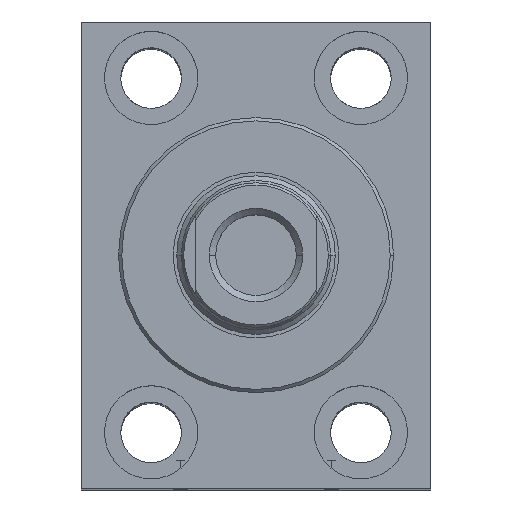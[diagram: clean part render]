
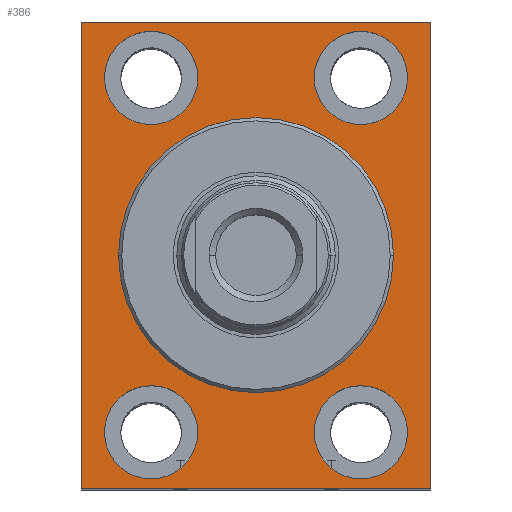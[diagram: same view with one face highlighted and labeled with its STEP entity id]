
A CAD part, top view. The second image highlights one B-rep face of the part: STEP entity #386.
In plain terms, the highlighted planar face has unit normal (0, 0, 1).
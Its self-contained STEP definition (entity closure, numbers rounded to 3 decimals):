
#15 = CIRCLE ( 'NONE', #5001, 10. ) ;
#47 = ORIENTED_EDGE ( 'NONE', *, *, #1161, .T. ) ;
#66 = FACE_BOUND ( 'NONE', #912, .T. ) ;
#68 = CARTESIAN_POINT ( 'NONE',  ( -37.5, -50., -10. ) ) ;
#92 = AXIS2_PLACEMENT_3D ( 'NONE', #5874, #6452, #3270 ) ;
#101 = FACE_BOUND ( 'NONE', #1157, .T. ) ;
#143 = PLANE ( 'NONE',  #4016 ) ;
#314 = CARTESIAN_POINT ( 'NONE',  ( -22.5, -38., -10. ) ) ;
#333 = DIRECTION ( 'NONE',  ( -1., 0., 0. ) ) ;
#381 = ORIENTED_EDGE ( 'NONE', *, *, #6910, .T. ) ;
#386 = ADVANCED_FACE ( 'NONE', ( #794, #4446, #101, #7668, #66, #4405 ), #143, .T. ) ;
#452 = CARTESIAN_POINT ( 'NONE',  ( 32.5, 38., -10. ) ) ;
#480 = AXIS2_PLACEMENT_3D ( 'NONE', #6302, #2438, #3934 ) ;
#794 = FACE_BOUND ( 'NONE', #7194, .T. ) ;
#846 = DIRECTION ( 'NONE',  ( -1., 0., 0. ) ) ;
#912 = EDGE_LOOP ( 'NONE', ( #4352, #4457 ) ) ;
#951 = VECTOR ( 'NONE', #4124, 1000. ) ;
#1111 = DIRECTION ( 'NONE',  ( 0., 0., -1. ) ) ;
#1125 = DIRECTION ( 'NONE',  ( -1., 0., 0. ) ) ;
#1150 = DIRECTION ( 'NONE',  ( -1., 0., 0. ) ) ;
#1156 = AXIS2_PLACEMENT_3D ( 'NONE', #1840, #7527, #6231 ) ;
#1157 = EDGE_LOOP ( 'NONE', ( #7474, #5528 ) ) ;
#1161 = EDGE_CURVE ( 'NONE', #2017, #6654, #5355, .T. ) ;
#1193 = EDGE_CURVE ( 'NONE', #4939, #2117, #6797, .T. ) ;
#1320 = LINE ( 'NONE', #68, #4884 ) ;
#1344 = EDGE_CURVE ( 'NONE', #6645, #2289, #5096, .T. ) ;
#1613 = VERTEX_POINT ( 'NONE', #6896 ) ;
#1624 = VERTEX_POINT ( 'NONE', #3121 ) ;
#1644 = EDGE_CURVE ( 'NONE', #1624, #5294, #6004, .T. ) ;
#1766 = CARTESIAN_POINT ( 'NONE',  ( -22.5, 38., -10. ) ) ;
#1840 = CARTESIAN_POINT ( 'NONE',  ( -22.5, 38., -10. ) ) ;
#2017 = VERTEX_POINT ( 'NONE', #3683 ) ;
#2023 = DIRECTION ( 'NONE',  ( 0., 0., 1. ) ) ;
#2117 = VERTEX_POINT ( 'NONE', #4298 ) ;
#2119 = DIRECTION ( 'NONE',  ( 0., 0., -1. ) ) ;
#2206 = CARTESIAN_POINT ( 'NONE',  ( 37.5, 50., -10. ) ) ;
#2262 = AXIS2_PLACEMENT_3D ( 'NONE', #4147, #4233, #333 ) ;
#2289 = VERTEX_POINT ( 'NONE', #6591 ) ;
#2438 = DIRECTION ( 'NONE',  ( 0., 0., -1. ) ) ;
#2590 = AXIS2_PLACEMENT_3D ( 'NONE', #6862, #4906, #1150 ) ;
#2613 = CARTESIAN_POINT ( 'NONE',  ( 0., 0., -10. ) ) ;
#2664 = EDGE_CURVE ( 'NONE', #4950, #6371, #3654, .T. ) ;
#2702 = ORIENTED_EDGE ( 'NONE', *, *, #4473, .T. ) ;
#2710 = ORIENTED_EDGE ( 'NONE', *, *, #6316, .T. ) ;
#2758 = ORIENTED_EDGE ( 'NONE', *, *, #1193, .T. ) ;
#2961 = DIRECTION ( 'NONE',  ( 0., -1., 0. ) ) ;
#3079 = CARTESIAN_POINT ( 'NONE',  ( 12.5, -38., -10. ) ) ;
#3121 = CARTESIAN_POINT ( 'NONE',  ( 32.5, -38., -10. ) ) ;
#3228 = DIRECTION ( 'NONE',  ( 0., 1., 0. ) ) ;
#3270 = DIRECTION ( 'NONE',  ( -1., 0., 0. ) ) ;
#3294 = CIRCLE ( 'NONE', #7508, 10. ) ;
#3450 = ORIENTED_EDGE ( 'NONE', *, *, #1344, .T. ) ;
#3623 = CIRCLE ( 'NONE', #92, 10. ) ;
#3654 = CIRCLE ( 'NONE', #4311, 10. ) ;
#3683 = CARTESIAN_POINT ( 'NONE',  ( -12.5, 38., -10. ) ) ;
#3744 = EDGE_CURVE ( 'NONE', #6654, #2017, #15, .T. ) ;
#3855 = ORIENTED_EDGE ( 'NONE', *, *, #5664, .T. ) ;
#3934 = DIRECTION ( 'NONE',  ( 0., 1., 0. ) ) ;
#4016 = AXIS2_PLACEMENT_3D ( 'NONE', #2613, #2023, #4531 ) ;
#4072 = VECTOR ( 'NONE', #2961, 1000. ) ;
#4086 = CARTESIAN_POINT ( 'NONE',  ( 0., 29.501, -10. ) ) ;
#4124 = DIRECTION ( 'NONE',  ( 0., 1., 0. ) ) ;
#4147 = CARTESIAN_POINT ( 'NONE',  ( 22.5, 38., -10. ) ) ;
#4233 = DIRECTION ( 'NONE',  ( 0., 0., -1. ) ) ;
#4298 = CARTESIAN_POINT ( 'NONE',  ( 0., -29.501, -10. ) ) ;
#4311 = AXIS2_PLACEMENT_3D ( 'NONE', #7658, #6382, #6539 ) ;
#4352 = ORIENTED_EDGE ( 'NONE', *, *, #5436, .T. ) ;
#4373 = EDGE_CURVE ( 'NONE', #5294, #1624, #3623, .T. ) ;
#4405 = FACE_OUTER_BOUND ( 'NONE', #6612, .T. ) ;
#4446 = FACE_BOUND ( 'NONE', #6221, .T. ) ;
#4457 = ORIENTED_EDGE ( 'NONE', *, *, #5911, .T. ) ;
#4459 = CIRCLE ( 'NONE', #7351, 10. ) ;
#4473 = EDGE_CURVE ( 'NONE', #2117, #4939, #6151, .T. ) ;
#4475 = DIRECTION ( 'NONE',  ( -1., 0., 0. ) ) ;
#4531 = DIRECTION ( 'NONE',  ( 1., 0., 0. ) ) ;
#4677 = DIRECTION ( 'NONE',  ( 0., 0., -1. ) ) ;
#4692 = AXIS2_PLACEMENT_3D ( 'NONE', #5295, #4677, #3228 ) ;
#4711 = CARTESIAN_POINT ( 'NONE',  ( 12.5, 38., -10. ) ) ;
#4761 = CARTESIAN_POINT ( 'NONE',  ( -37.5, -50., -10. ) ) ;
#4884 = VECTOR ( 'NONE', #7629, 1000. ) ;
#4888 = CARTESIAN_POINT ( 'NONE',  ( -32.5, -38., -10. ) ) ;
#4906 = DIRECTION ( 'NONE',  ( 0., 0., -1. ) ) ;
#4939 = VERTEX_POINT ( 'NONE', #4086 ) ;
#4950 = VERTEX_POINT ( 'NONE', #4711 ) ;
#5001 = AXIS2_PLACEMENT_3D ( 'NONE', #1766, #8131, #1125 ) ;
#5052 = EDGE_LOOP ( 'NONE', ( #7278, #5920 ) ) ;
#5096 = LINE ( 'NONE', #7609, #5604 ) ;
#5294 = VERTEX_POINT ( 'NONE', #3079 ) ;
#5295 = CARTESIAN_POINT ( 'NONE',  ( 0., 0., -10. ) ) ;
#5355 = CIRCLE ( 'NONE', #1156, 10. ) ;
#5436 = EDGE_CURVE ( 'NONE', #8090, #1613, #3294, .T. ) ;
#5528 = ORIENTED_EDGE ( 'NONE', *, *, #7746, .T. ) ;
#5556 = LINE ( 'NONE', #7473, #4072 ) ;
#5604 = VECTOR ( 'NONE', #4475, 1000. ) ;
#5664 = EDGE_CURVE ( 'NONE', #7632, #6645, #7890, .T. ) ;
#5874 = CARTESIAN_POINT ( 'NONE',  ( 22.5, -38., -10. ) ) ;
#5889 = CARTESIAN_POINT ( 'NONE',  ( 37.5, -50., -10. ) ) ;
#5911 = EDGE_CURVE ( 'NONE', #1613, #8090, #4459, .T. ) ;
#5920 = ORIENTED_EDGE ( 'NONE', *, *, #1644, .T. ) ;
#6004 = CIRCLE ( 'NONE', #2590, 10. ) ;
#6151 = CIRCLE ( 'NONE', #4692, 29.501 ) ;
#6221 = EDGE_LOOP ( 'NONE', ( #7094, #47 ) ) ;
#6231 = DIRECTION ( 'NONE',  ( -1., 0., 0. ) ) ;
#6302 = CARTESIAN_POINT ( 'NONE',  ( 0., 0., -10. ) ) ;
#6316 = EDGE_CURVE ( 'NONE', #2289, #7950, #5556, .T. ) ;
#6371 = VERTEX_POINT ( 'NONE', #452 ) ;
#6382 = DIRECTION ( 'NONE',  ( 0., 0., -1. ) ) ;
#6452 = DIRECTION ( 'NONE',  ( 0., 0., -1. ) ) ;
#6539 = DIRECTION ( 'NONE',  ( -1., 0., 0. ) ) ;
#6591 = CARTESIAN_POINT ( 'NONE',  ( -37.5, 50., -10. ) ) ;
#6596 = CIRCLE ( 'NONE', #2262, 10. ) ;
#6606 = CARTESIAN_POINT ( 'NONE',  ( -32.5, 38., -10. ) ) ;
#6612 = EDGE_LOOP ( 'NONE', ( #2710, #381, #3855, #3450 ) ) ;
#6645 = VERTEX_POINT ( 'NONE', #2206 ) ;
#6654 = VERTEX_POINT ( 'NONE', #6606 ) ;
#6797 = CIRCLE ( 'NONE', #480, 29.501 ) ;
#6862 = CARTESIAN_POINT ( 'NONE',  ( 22.5, -38., -10. ) ) ;
#6896 = CARTESIAN_POINT ( 'NONE',  ( -12.5, -38., -10. ) ) ;
#6910 = EDGE_CURVE ( 'NONE', #7950, #7632, #1320, .T. ) ;
#7094 = ORIENTED_EDGE ( 'NONE', *, *, #3744, .T. ) ;
#7194 = EDGE_LOOP ( 'NONE', ( #2758, #2702 ) ) ;
#7255 = CARTESIAN_POINT ( 'NONE',  ( 37.5, -50., -10. ) ) ;
#7278 = ORIENTED_EDGE ( 'NONE', *, *, #4373, .T. ) ;
#7351 = AXIS2_PLACEMENT_3D ( 'NONE', #7400, #1111, #7482 ) ;
#7400 = CARTESIAN_POINT ( 'NONE',  ( -22.5, -38., -10. ) ) ;
#7473 = CARTESIAN_POINT ( 'NONE',  ( -37.5, 50., -10. ) ) ;
#7474 = ORIENTED_EDGE ( 'NONE', *, *, #2664, .T. ) ;
#7482 = DIRECTION ( 'NONE',  ( -1., 0., 0. ) ) ;
#7508 = AXIS2_PLACEMENT_3D ( 'NONE', #314, #2119, #846 ) ;
#7527 = DIRECTION ( 'NONE',  ( 0., 0., -1. ) ) ;
#7609 = CARTESIAN_POINT ( 'NONE',  ( 37.5, 50., -10. ) ) ;
#7629 = DIRECTION ( 'NONE',  ( 1., 0., 0. ) ) ;
#7632 = VERTEX_POINT ( 'NONE', #5889 ) ;
#7658 = CARTESIAN_POINT ( 'NONE',  ( 22.5, 38., -10. ) ) ;
#7668 = FACE_BOUND ( 'NONE', #5052, .T. ) ;
#7746 = EDGE_CURVE ( 'NONE', #6371, #4950, #6596, .T. ) ;
#7890 = LINE ( 'NONE', #7255, #951 ) ;
#7950 = VERTEX_POINT ( 'NONE', #4761 ) ;
#8090 = VERTEX_POINT ( 'NONE', #4888 ) ;
#8131 = DIRECTION ( 'NONE',  ( 0., 0., -1. ) ) ;
